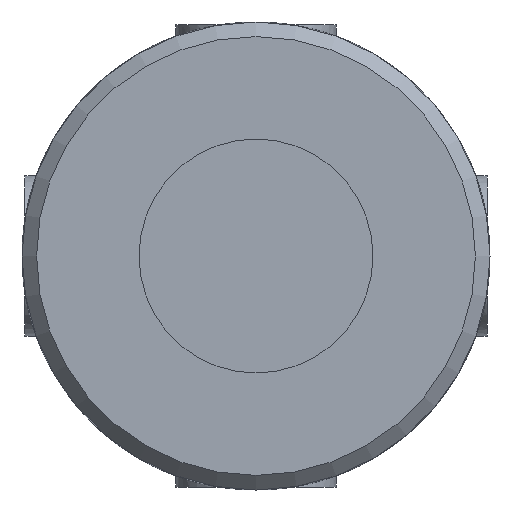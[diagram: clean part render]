
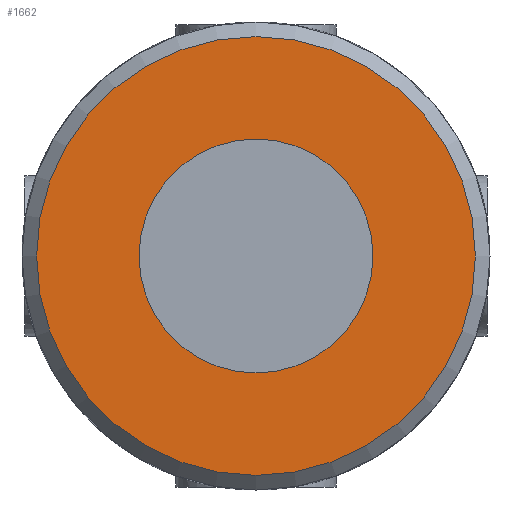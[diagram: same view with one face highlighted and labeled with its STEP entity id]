
A CAD part, front view. The second image highlights one B-rep face of the part: STEP entity #1662.
In plain terms, the highlighted planar face has unit normal (0, -1, 0).
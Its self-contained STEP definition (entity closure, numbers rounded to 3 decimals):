
#200=PLANE('',#1843);
#360=FACE_BOUND('',#593,.T.);
#448=FACE_OUTER_BOUND('',#592,.T.);
#592=EDGE_LOOP('',(#1447));
#593=EDGE_LOOP('',(#1448));
#692=CIRCLE('',#1838,8.);
#694=CIRCLE('',#1841,15.);
#830=VERTEX_POINT('',#3235);
#832=VERTEX_POINT('',#3240);
#1037=EDGE_CURVE('',#830,#830,#692,.T.);
#1039=EDGE_CURVE('',#832,#832,#694,.T.);
#1447=ORIENTED_EDGE('',*,*,#1039,.F.);
#1448=ORIENTED_EDGE('',*,*,#1037,.T.);
#1662=ADVANCED_FACE('',(#448,#360),#200,.F.);
#1838=AXIS2_PLACEMENT_3D('',#3236,#2224,#2225);
#1841=AXIS2_PLACEMENT_3D('',#3241,#2230,#2231);
#1843=AXIS2_PLACEMENT_3D('',#3453,#2238,#2239);
#2224=DIRECTION('center_axis',(0.,1.,0.));
#2225=DIRECTION('ref_axis',(-1.,0.,0.));
#2230=DIRECTION('center_axis',(0.,1.,0.));
#2231=DIRECTION('ref_axis',(1.,0.,0.));
#2238=DIRECTION('center_axis',(0.,1.,0.));
#2239=DIRECTION('ref_axis',(0.,0.,1.));
#3235=CARTESIAN_POINT('',(8.,-42.,0.));
#3236=CARTESIAN_POINT('Origin',(0.,-42.,0.));
#3240=CARTESIAN_POINT('',(-15.,-42.,0.));
#3241=CARTESIAN_POINT('Origin',(0.,-42.,0.));
#3453=CARTESIAN_POINT('Origin',(0.,-42.,0.));
